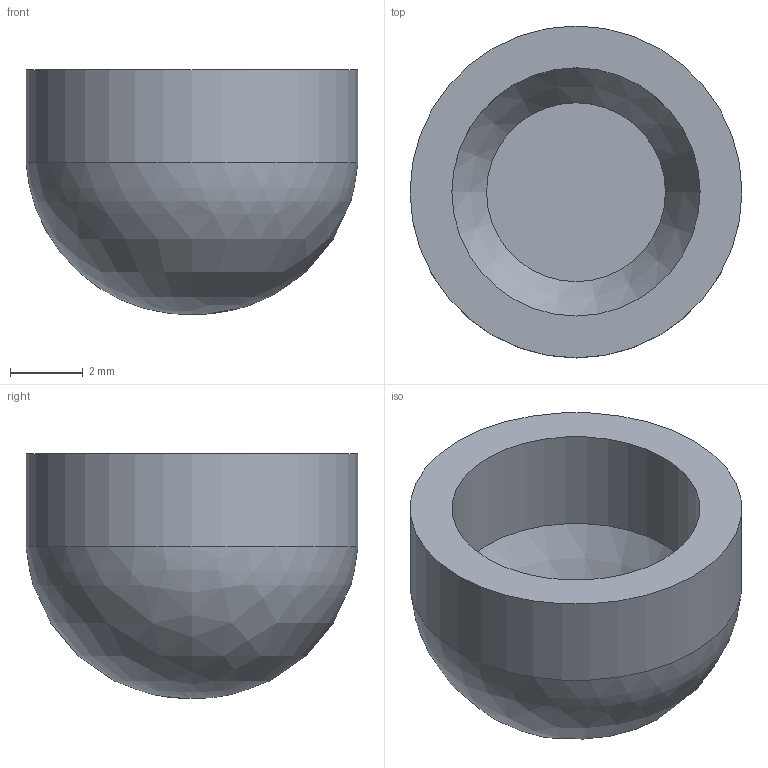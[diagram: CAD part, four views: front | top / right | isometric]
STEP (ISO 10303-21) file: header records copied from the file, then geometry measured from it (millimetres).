
FILE_DESCRIPTION(/* description */ (''),/* implementation_level */ '2;1');
FILE_NAME(/* name */ 'Sight Detent Metric.stp',/* time_stamp */ '2026-08-20T18:51:59-06:00',/* author */ (''),/* organization */ (''),/* preprocessor_version */ 'ST-DEVELOPER v18.102',/* originating_system */ 'SIEMENS PLM Software NX 2027',/* authorisation */ '');
FILE_SCHEMA (('AUTOMOTIVE_DESIGN { 1 0 10303 214 3 1 1 1 }'));
Length unit declared in the file: millimetre
Products named in the file (1): Sight Detent Metric
Bounding box: 9.13 x 9.13 x 6.73 mm (x, y, z)
Volume: 194.1 mm3; surface area: 340.9 mm2
Topology: 1 solids, 1 shells, 6 faces, 10 edges, 6 vertices
Faces by surface type: cylinder 2, plane 2, cone 1, bspline 1
Full cylindrical faces by diameter (mm): 6.83 x1, 9.13 x1
Entity records: 165 total; most frequent: CARTESIAN_POINT 45, DIRECTION 22, AXIS2_PLACEMENT_3D 11, FACE_BOUND 10, EDGE_LOOP 10, ORIENTED_EDGE 10, ADVANCED_FACE 6, VERTEX_POINT 6
